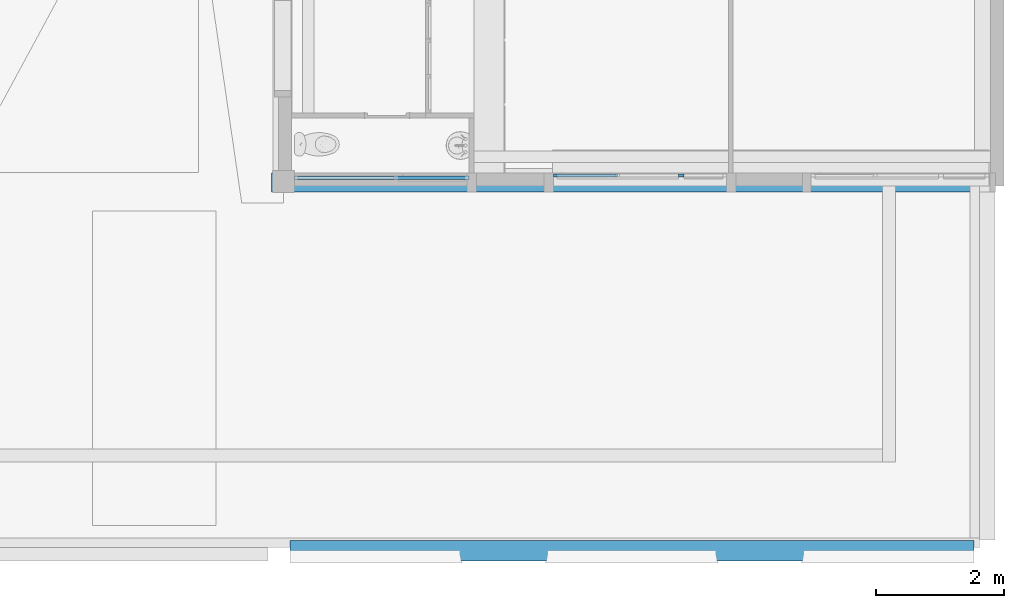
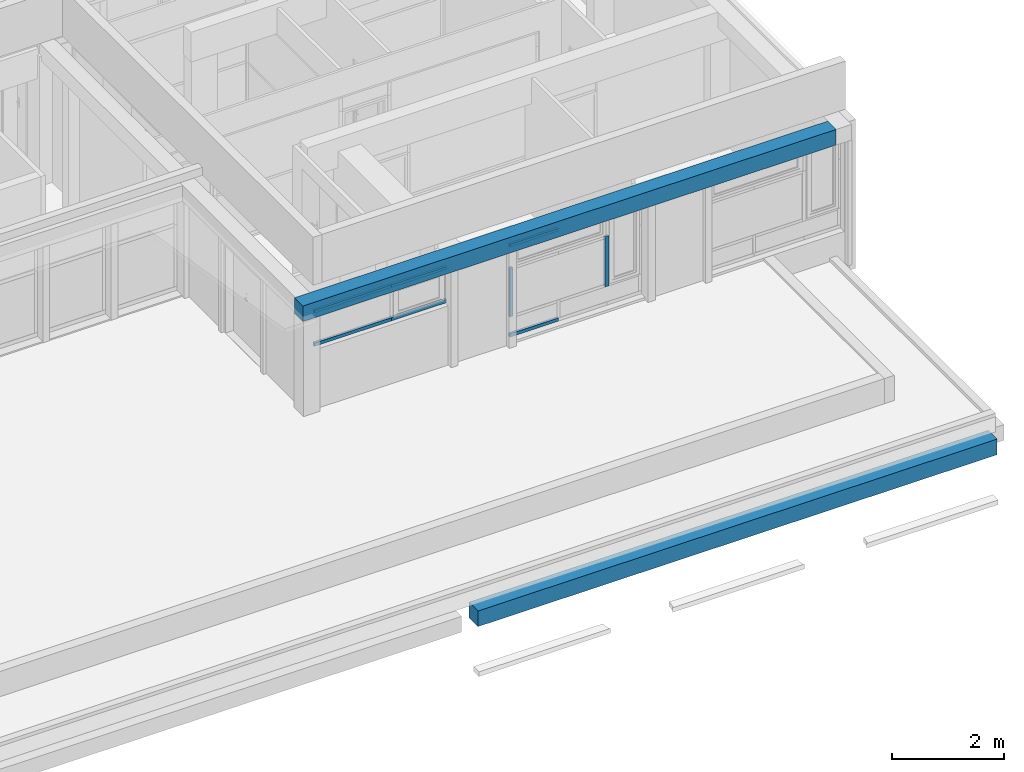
# One storey, part 5 of 49: 8 members, 2 beams, 2 elements without a shape of their own.
"""IFC4 building model written with IfcOpenShell, lengths in metres."""

from ifc_helpers import new_model, entity, si_unit, converted_unit, derived_unit, direction, frame, origin, place, context, subcontext, project, spatial, indexed_curve, outline, extrude, source, transform, mapped, material, type_object, type_shapes, element, aggregate, save


model = new_model("IFC4")

# Units and contexts
model_context = context("Model", 3, precision=1e-05, world=origin(), true_north=direction((6.12303176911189e-17, 1.0)))
body_context = subcontext(model_context, "Body", "Model", "MODEL_VIEW")
ifc_project = project(units=[si_unit("LENGTHUNIT", "METRE"), si_unit("AREAUNIT", "SQUARE_METRE"), si_unit("VOLUMEUNIT", "CUBIC_METRE"), converted_unit("PLANEANGLEUNIT", "DEGREE", entity("IfcRatioMeasure", 0.0174532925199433), si_unit("PLANEANGLEUNIT", "RADIAN"), dimensions=[0, 0, 0, 0, 0, 0, 0]), si_unit("MASSUNIT", "GRAM", prefix="KILO"), derived_unit("MASSDENSITYUNIT", [(si_unit("MASSUNIT", "GRAM", prefix="KILO"), 1), (si_unit("LENGTHUNIT", "METRE"), -3)]), derived_unit("MOMENTOFINERTIAUNIT", [(si_unit("LENGTHUNIT", "METRE"), 4)]), si_unit("TIMEUNIT", "SECOND"), si_unit("FREQUENCYUNIT", "HERTZ"), si_unit("THERMODYNAMICTEMPERATUREUNIT", "DEGREE_CELSIUS"), derived_unit("THERMALTRANSMITTANCEUNIT", [(si_unit("MASSUNIT", "GRAM", prefix="KILO"), 1), (si_unit("THERMODYNAMICTEMPERATUREUNIT", "KELVIN"), -1), (si_unit("TIMEUNIT", "SECOND"), -3)]), derived_unit("VOLUMETRICFLOWRATEUNIT", [(si_unit("LENGTHUNIT", "METRE"), 3), (si_unit("TIMEUNIT", "SECOND"), -1)]), si_unit("ELECTRICCURRENTUNIT", "AMPERE"), si_unit("ELECTRICVOLTAGEUNIT", "VOLT"), si_unit("POWERUNIT", "WATT"), si_unit("FORCEUNIT", "NEWTON", prefix="KILO"), si_unit("ILLUMINANCEUNIT", "LUX"), si_unit("LUMINOUSFLUXUNIT", "LUMEN"), si_unit("LUMINOUSINTENSITYUNIT", "CANDELA"), derived_unit("USERDEFINED", [(si_unit("MASSUNIT", "GRAM", prefix="KILO"), -1), (si_unit("LENGTHUNIT", "METRE"), -2), (si_unit("TIMEUNIT", "SECOND"), 3), (si_unit("LUMINOUSFLUXUNIT", "LUMEN"), 1)]), derived_unit("LINEARVELOCITYUNIT", [(si_unit("LENGTHUNIT", "METRE"), 1), (si_unit("TIMEUNIT", "SECOND"), -1)]), si_unit("PRESSUREUNIT", "PASCAL"), derived_unit("USERDEFINED", [(si_unit("LENGTHUNIT", "METRE"), -2), (si_unit("MASSUNIT", "GRAM", prefix="KILO"), 1), (si_unit("TIMEUNIT", "SECOND"), -2)]), derived_unit("LINEARFORCEUNIT", [(si_unit("MASSUNIT", "GRAM", prefix="KILO"), 1), (si_unit("LENGTHUNIT", "METRE"), 1), (si_unit("TIMEUNIT", "SECOND"), -2), (si_unit("LENGTHUNIT", "METRE"), -1)]), derived_unit("PLANARFORCEUNIT", [(si_unit("MASSUNIT", "GRAM", prefix="KILO"), 1), (si_unit("LENGTHUNIT", "METRE"), 1), (si_unit("TIMEUNIT", "SECOND"), -2), (si_unit("LENGTHUNIT", "METRE"), -2)])], contexts=[model_context])

# Site, building, storey
site_placement = place(None, origin())
site = spatial("IfcSite", under=ifc_project, at=site_placement, Name="Default", CompositionType="ELEMENT")
building_placement = place(site_placement, origin())
building = spatial("IfcBuilding", under=site, at=building_placement, Name="HOTEL CONSULAIRE BOULOGNE SUR MER", CompositionType="ELEMENT")
storey_placement = place(building_placement, frame((0.0, 0.0, 6.81974152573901)))
storey = spatial("IfcBuildingStorey", under=building, at=storey_placement, Name="Niveau 2", CompositionType="ELEMENT", Elevation=6.81974152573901)

# Beams
ifc_material_1 = material(Name="Béton - Béton coulé sur place", Category="Béton")
beam_type_1 = type_object("IfcBeamType", Name="Poutre rectangulaire - Béton:320x340", PredefinedType="BEAM", material=ifc_material_1)
shared_shape_1 = source(origin(), body_context, "Body", "SweptSolid", [
    extrude(outline(indexed_curve([(-0.170000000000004, -0.159999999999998), (0.169999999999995, -0.159999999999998), (0.170000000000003, 0.160000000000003), (-0.169999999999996, 0.160000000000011), (-0.170000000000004, -0.159999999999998)], self_intersect=False)), frame((11.6466382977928, -29.7240671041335, 6.46174152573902), z_axis=(1.0, 0.0, 0.0), x_axis=(0.0, 0.0, -1.0)), (0.0, 0.0, 1.0), 10.682),
])
type_shapes(beam_type_1, [shared_shape_1])
beam_1_placement = place(storey_placement, frame((0.0, 0.0, -6.81974152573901)))
element("IfcBeam", 1, at=beam_1_placement, inside=storey, type_object=beam_type_1, material=ifc_material_1, Name="Poutre rectangulaire - Béton:320x340", ObjectType="Poutre rectangulaire - Béton:320x340", PredefinedType="BEAM", context=body_context, shape_type="MappedRepresentation", body=[
    mapped(shared_shape_1, transform((0.0, 0.0, 0.0), scale=1.0)),
])
beam_type_2 = type_object("IfcBeamType", Name="Poutre rectangulaire - Béton:300x340", PredefinedType="BEAM", material=ifc_material_1)
shared_shape_2 = source(origin(), body_context, "Body", "SweptSolid", [
    extrude(outline(indexed_curve([(-0.170000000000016, -0.149999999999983), (0.169999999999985, -0.149999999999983), (0.170000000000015, 0.150000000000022), (-0.169999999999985, 0.150000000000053), (-0.170000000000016, -0.149999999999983)], self_intersect=False)), frame((11.3645734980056, -23.9771007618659, 9.70174152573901), z_axis=(1.0, 0.0, 0.0), x_axis=(0.0, 0.0, -1.0)), (0.0, 0.0, 1.0), 10.9740647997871),
])
type_shapes(beam_type_2, [shared_shape_2])
beam_2_placement = place(storey_placement, frame((0.0, 0.0, -6.81974152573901)))
element("IfcBeam", 2, at=beam_2_placement, inside=storey, type_object=beam_type_2, material=ifc_material_1, Name="Poutre rectangulaire - Béton:300x340", ObjectType="Poutre rectangulaire - Béton:300x340", PredefinedType="BEAM", context=body_context, shape_type="MappedRepresentation", body=[
    mapped(shared_shape_2, transform((0.0, 0.0, 0.0), scale=1.0)),
])

# Curtain wall, members
curtain_wall_type = type_object("IfcCurtainWallType", Name="Mur-rideau:Simple panneau", PredefinedType="NOTDEFINED")
curtain_wall_1_placement = place(storey_placement, frame((0.0, 0.0, -6.81974152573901)))
curtain_wall_1 = element("IfcCurtainWall", 3, at=curtain_wall_1_placement, inside=storey, type_object=curtain_wall_type, Name="Mur-rideau:Simple panneau", ObjectType="Mur-rideau:Simple panneau", PredefinedType="NOTDEFINED")
ifc_material_2 = material(Name="PVC - Blanc", Category="Plastique")
member_type_1 = type_object("IfcMemberType", Name="Meneau rectangulaire:50 x 35", PredefinedType="MULLION", material=ifc_material_2)
shared_shape_3 = source(origin(), body_context, "Body", "SweptSolid", [
    extrude(outline(indexed_curve([(-0.025, -0.035), (0.025, -0.035), (0.025, 0.035), (-0.025, 0.035), (-0.025, -0.035)], self_intersect=False)), frame((-0.035, -0.025, -1.0), z_axis=(0.0, 0.0, 1.0), x_axis=(0.0, -1.0, 0.0)), (0.0, 0.0, 1.0), 0.999999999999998),
])
type_shapes(member_type_1, [shared_shape_3])
member_1_placement = place(storey_placement, frame((15.7620413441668, -23.8933633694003, 0.693999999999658), z_axis=(-1.0, 0.0, 0.0), x_axis=(0.0, 0.0, -1.0)))
member_1 = element("IfcMember", 4, at=member_1_placement, type_object=member_type_1, material=ifc_material_2, Name="Meneau rectangulaire:50 x 35", ObjectType="Meneau rectangulaire:50 x 35", PredefinedType="MULLION", context=body_context, shape_type="MappedRepresentation", body=[
    mapped(shared_shape_3, transform((0.0, 0.0, 0.0), scale=1.0)),
])
member_type_2 = type_object("IfcMemberType", Name="Meneau rectangulaire:50 x 30", PredefinedType="MULLION", material=ifc_material_2)
shared_shape_4 = source(origin(), body_context, "Body", "SweptSolid", [
    extrude(outline(indexed_curve([(-0.025, -0.03), (0.025, -0.03), (0.025, 0.03), (-0.025, 0.03), (-0.025, -0.03)], self_intersect=False)), frame((-0.03, -0.025, -1.06), z_axis=(0.0, 0.0, 1.0), x_axis=(0.0, -1.0, 0.0)), (0.0, 0.0, 1.0), 1.06),
])
type_shapes(member_type_2, [shared_shape_4])
member_2_placement = place(storey_placement, frame((15.7620413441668, -23.8933633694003, 2.18999999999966), z_axis=(0.0, 0.0, 1.0), x_axis=(-1.0, 0.0, 0.0)))
member_2 = element("IfcMember", 5, at=member_2_placement, type_object=member_type_2, material=ifc_material_2, Name="Meneau rectangulaire:50 x 30", ObjectType="Meneau rectangulaire:50 x 30", PredefinedType="MULLION", context=body_context, shape_type="MappedRepresentation", body=[
    mapped(shared_shape_4, transform((0.0, 0.0, 0.0), scale=1.0)),
])
member_type_3 = type_object("IfcMemberType", Name="Meneau rectangulaire:50 x 30", PredefinedType="MULLION", material=ifc_material_2)
shared_shape_5 = source(origin(), body_context, "Body", "SweptSolid", [
    extrude(outline(indexed_curve([(-0.025, -0.03), (0.025, -0.03), (0.025, 0.03), (-0.025, 0.03), (-0.025, -0.03)], self_intersect=False)), frame((-0.03, -0.025, -1.0), z_axis=(0.0, 0.0, 1.0), x_axis=(0.0, -1.0, 0.0)), (0.0, 0.0, 1.0), 0.999999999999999),
])
type_shapes(member_type_3, [shared_shape_5])
member_3_placement = place(storey_placement, frame((16.7620413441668, -23.8933633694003, 2.712), z_axis=(1.0, 0.0, 0.0), x_axis=(0.0, 0.0, 1.0)))
member_3 = element("IfcMember", 6, at=member_3_placement, type_object=member_type_3, material=ifc_material_2, Name="Meneau rectangulaire:50 x 30", ObjectType="Meneau rectangulaire:50 x 30", PredefinedType="MULLION", context=body_context, shape_type="MappedRepresentation", body=[
    mapped(shared_shape_5, transform((0.0, 0.0, 0.0), scale=1.0)),
])
member_type_4 = type_object("IfcMemberType", Name="Meneau rectangulaire:50 x 40", PredefinedType="MULLION", material=ifc_material_2)
shared_shape_6 = source(origin(), body_context, "Body", "SweptSolid", [
    extrude(outline(indexed_curve([(-0.025, -0.04), (0.025, -0.04), (0.025, 0.04), (-0.025, 0.04), (-0.025, -0.04)], self_intersect=False)), frame((0.0, -0.025, -1.09), z_axis=(0.0, 0.0, 1.0), x_axis=(0.0, -1.0, 0.0)), (0.0, 0.0, 1.0), 1.09),
])
type_shapes(member_type_4, [shared_shape_6])
member_4_placement = place(storey_placement, frame((17.7580413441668, -23.8933633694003, 1.09999999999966), z_axis=(0.0, 0.0, -1.0), x_axis=(1.0, 0.0, 0.0)))
member_4 = element("IfcMember", 7, at=member_4_placement, type_object=member_type_4, material=ifc_material_2, Name="Meneau rectangulaire:50 x 40", ObjectType="Meneau rectangulaire:50 x 40", PredefinedType="MULLION", context=body_context, shape_type="MappedRepresentation", body=[
    mapped(shared_shape_6, transform((0.0, 0.0, 0.0), scale=1.0)),
])
aggregate(curtain_wall_1, [member_1, member_2, member_3, member_4])

curtain_wall_2_placement = place(storey_placement, frame((0.0, 0.0, -6.81974152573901)))
curtain_wall_2 = element("IfcCurtainWall", 8, at=curtain_wall_2_placement, inside=storey, type_object=curtain_wall_type, Name="Mur-rideau:Simple panneau", ObjectType="Mur-rideau:Simple panneau", PredefinedType="NOTDEFINED")
member_type_5 = type_object("IfcMemberType", Name="Meneau rectangulaire:50 x 30", PredefinedType="MULLION", material=ifc_material_2)
shared_shape_7 = source(origin(), body_context, "Body", "SweptSolid", [
    extrude(outline(indexed_curve([(-0.025, -0.03), (0.025, -0.03), (0.025, 0.03), (-0.025, 0.03), (-0.025, -0.03)], self_intersect=False)), frame((-0.03, -0.025, -1.588), z_axis=(0.0, 0.0, 1.0), x_axis=(0.0, -1.0, 0.0)), (0.0, 0.0, 1.0), 1.588),
])
type_shapes(member_type_5, [shared_shape_7])
member_5_placement = place(storey_placement, frame((13.3049086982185, -23.9271007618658, 2.712), z_axis=(1.0, 0.0, 0.0), x_axis=(0.0, 0.0, 1.0)))
member_5 = element("IfcMember", 9, at=member_5_placement, type_object=member_type_5, material=ifc_material_2, Name="Meneau rectangulaire:50 x 30", ObjectType="Meneau rectangulaire:50 x 30", PredefinedType="MULLION", context=body_context, shape_type="MappedRepresentation", body=[
    mapped(shared_shape_7, transform((0.0, 0.0, 0.0), scale=1.0)),
])
member_type_6 = type_object("IfcMemberType", Name="Meneau rectangulaire:50 x 30", PredefinedType="MULLION", material=ifc_material_2)
shared_shape_8 = source(origin(), body_context, "Body", "SweptSolid", [
    extrude(outline(indexed_curve([(-0.025, -0.03), (0.025, -0.03), (0.025, 0.03), (-0.025, 0.03), (-0.025, -0.03)], self_intersect=False)), frame((-0.03, -0.025, -1.137), z_axis=(0.0, 0.0, 1.0), x_axis=(0.0, -1.0, 0.0)), (0.0, 0.0, 1.0), 1.137),
])
type_shapes(member_type_6, [shared_shape_8])
member_6_placement = place(storey_placement, frame((14.4419086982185, -23.9271007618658, 2.712), z_axis=(1.0, 0.0, 0.0), x_axis=(0.0, 0.0, 1.0)))
member_6 = element("IfcMember", 10, at=member_6_placement, type_object=member_type_6, material=ifc_material_2, Name="Meneau rectangulaire:50 x 30", ObjectType="Meneau rectangulaire:50 x 30", PredefinedType="MULLION", context=body_context, shape_type="MappedRepresentation", body=[
    mapped(shared_shape_8, transform((0.0, 0.0, 0.0), scale=1.0)),
])
member_type_7 = type_object("IfcMemberType", Name="Meneau rectangulaire:50 x 35", PredefinedType="MULLION", material=ifc_material_2)
shared_shape_9 = source(origin(), body_context, "Body", "SweptSolid", [
    extrude(outline(indexed_curve([(-0.025, -0.035), (0.025, -0.035), (0.025, 0.035), (-0.025, 0.035), (-0.025, -0.035)], self_intersect=False)), frame((-0.035, -0.025, -1.137), z_axis=(0.0, 0.0, 1.0), x_axis=(0.0, -1.0, 0.0)), (0.0, 0.0, 1.0), 1.137),
])
type_shapes(member_type_7, [shared_shape_9])
member_7_placement = place(storey_placement, frame((13.3049086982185, -23.9271007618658, 1.92937110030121), z_axis=(-1.0, 0.0, 0.0), x_axis=(0.0, 0.0, -1.0)))
member_7 = element("IfcMember", 11, at=member_7_placement, type_object=member_type_7, material=ifc_material_2, Name="Meneau rectangulaire:50 x 35", ObjectType="Meneau rectangulaire:50 x 35", PredefinedType="MULLION", context=body_context, shape_type="MappedRepresentation", body=[
    mapped(shared_shape_9, transform((0.0, 0.0, 0.0), scale=1.0)),
])
member_type_8 = type_object("IfcMemberType", Name="Meneau rectangulaire:50 x 35", PredefinedType="MULLION", material=ifc_material_2)
shared_shape_10 = source(origin(), body_context, "Body", "SweptSolid", [
    extrude(outline(indexed_curve([(-0.025, -0.035), (0.025, -0.035), (0.025, 0.035), (-0.025, 0.035), (-0.025, -0.035)], self_intersect=False)), frame((-0.035, -0.025, -1.588), z_axis=(0.0, 0.0, 1.0), x_axis=(0.0, -1.0, 0.0)), (0.0, 0.0, 1.0), 1.588),
])
type_shapes(member_type_8, [shared_shape_10])
member_8_placement = place(storey_placement, frame((11.7169086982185, -23.9271007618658, 1.92937110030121), z_axis=(-1.0, 0.0, 0.0), x_axis=(0.0, 0.0, -1.0)))
member_8 = element("IfcMember", 12, at=member_8_placement, type_object=member_type_8, material=ifc_material_2, Name="Meneau rectangulaire:50 x 35", ObjectType="Meneau rectangulaire:50 x 35", PredefinedType="MULLION", context=body_context, shape_type="MappedRepresentation", body=[
    mapped(shared_shape_10, transform((0.0, 0.0, 0.0), scale=1.0)),
])
aggregate(curtain_wall_2, [member_5, member_6, member_7, member_8])

save(model, "model.ifc")
